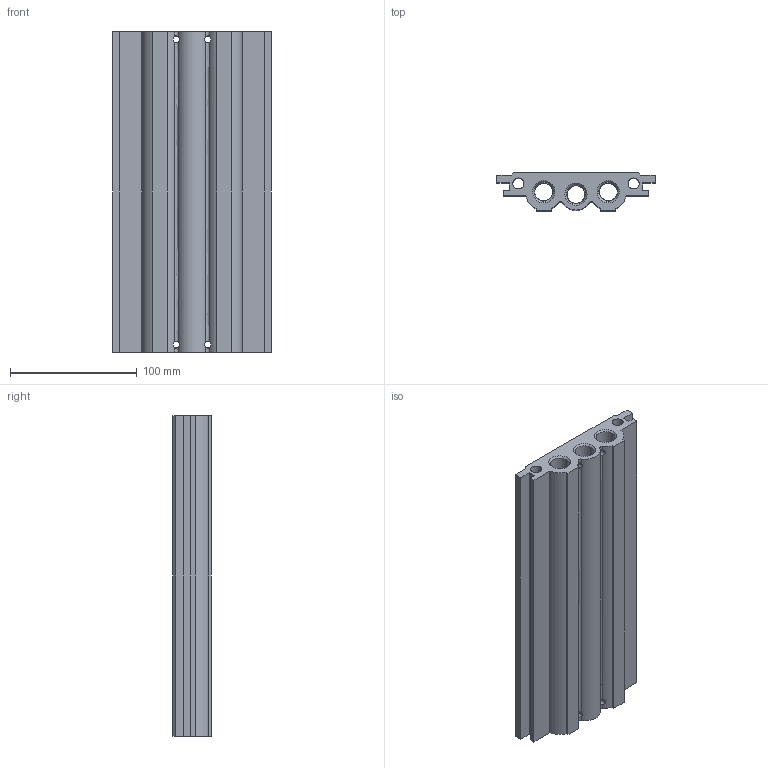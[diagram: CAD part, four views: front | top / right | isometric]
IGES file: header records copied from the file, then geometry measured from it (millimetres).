
Global section: file name: No Iges File Name specified; native system: AutoDesk Inventor R11.0; preprocessor: AutoDesk Inventor Iges Exporter R11.0; author: No Author specified; organization: No Organization specified; date: 20061201.115352; units: millimetre
Bounding box: 125 x 30 x 253 mm (x, y, z)
Volume: 520634 mm3; surface area: 145730.1 mm2
Topology: 1 solids, 1 shells, 316 faces, 828 edges, 548 vertices
Faces by surface type: bspline 255, revolution 28, plane 28, cylinder 5
